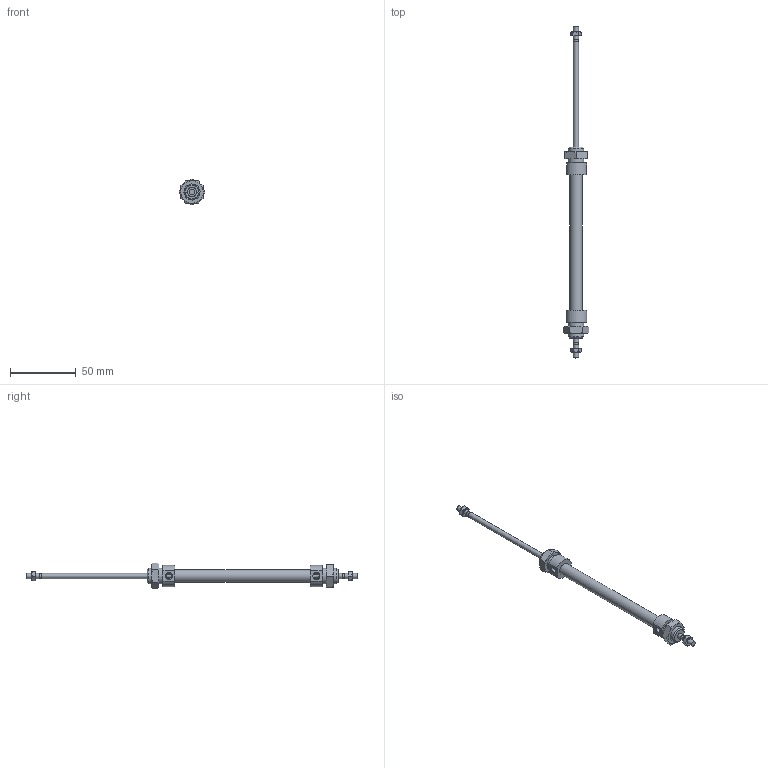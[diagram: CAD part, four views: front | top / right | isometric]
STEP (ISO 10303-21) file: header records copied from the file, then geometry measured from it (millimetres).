
FILE_DESCRIPTION((''),'2;1');
FILE_NAME('I:\Area Tecnica\Disegni\VARIE-3D\Componenti\1280\1282_##_####_#\1282_08_0075.iam.stp','2009-06-03T15:23:20',(''),(''),'Autodesk Inventor 2010','Autodesk Inventor 2010','');
FILE_SCHEMA(('AUTOMOTIVE_DESIGN { 1 0 10303 214 1 1 1 1 }'));
Length unit declared in the file: millimetre
Products named in the file (5): 1282_08_0075; C1282_08_75; S1282_08_75; 1200_08_05; 1200_08_06
Assembly tree (6 placements, depth 2):
  1282_08_0075
    C1282_08_75
    S1282_08_75
    1200_08_05  x2
    1200_08_06  x2
Bounding box: 19.63 x 252 x 19.63 mm (x, y, z)
Volume: 16135.7 mm3; surface area: 12362.8 mm2
Topology: 6 solids, 6 shells, 127 faces, 271 edges, 162 vertices
Faces by surface type: cone 52, plane 46, bspline 18, cylinder 11
Full cylindrical faces by diameter (mm): 3.5 x2, 4 x4, 9.2 x1, 12 x2
Entity records: 2371 total; most frequent: CARTESIAN_POINT 641, DIRECTION 310, ORIENTED_EDGE 280, AXIS2_PLACEMENT_3D 143, EDGE_CURVE 140, EDGE_LOOP 120, VERTEX_POINT 96, STYLED_ITEM 85
